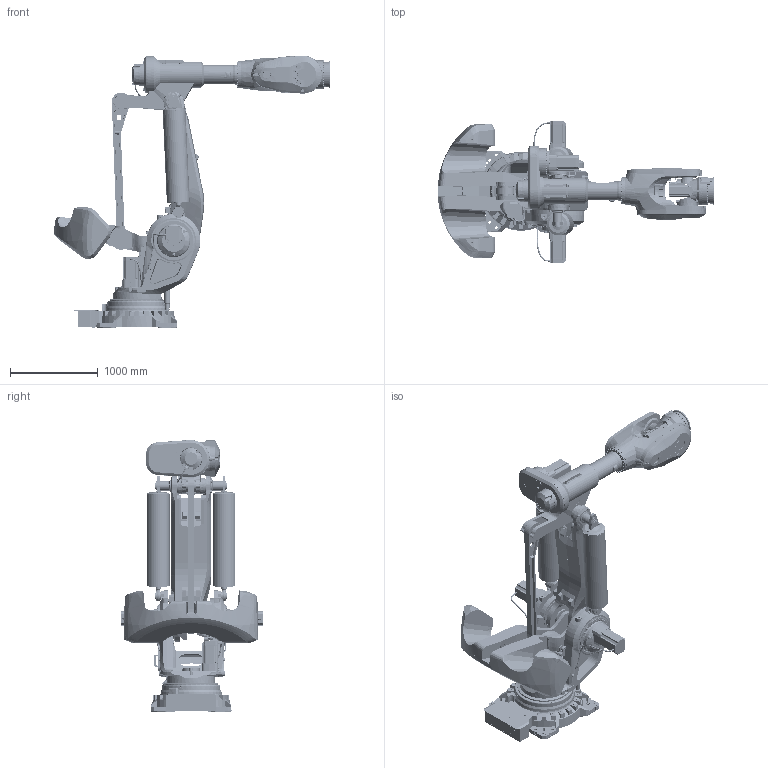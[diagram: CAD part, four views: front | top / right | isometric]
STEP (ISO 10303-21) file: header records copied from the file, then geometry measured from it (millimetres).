
FILE_DESCRIPTION(/* description */ (''),/* implementation_level */ '2;1');
FILE_NAME(/* name */ 'E:\组装完成的图纸\IRB 8700\IRB 8700-800-3.5\IRB 8700-800-3.5.stp',/* time_stamp */ '2023-10-31T11:33:08+08:00',/* author */ ('Administrator'),/* organization */ (''),/* preprocessor_version */ 'ST-DEVELOPER v16.5',/* originating_system */ 'Autodesk Inventor 2017',/* authorisation */ '');
FILE_SCHEMA (('AUTOMOTIVE_DESIGN { 1 0 10303 214 3 1 1 }'));
Length unit declared in the file: millimetre
Products named in the file (14): 部件3; IRB8700_800-350_IRC5_rev00_BAL-A-LEFT_CAD; IRB8700_800-350_IRC5_rev00_BAL-A-RIGHT_CAD; IRB8700_800-350_IRC5_rev00_BAL-B-LEFT_CAD; IRB8700_800-350_IRC5_rev00_BAL-B-RIGHT_CAD; IRB8700_800-350_IRC5_rev00_LINK1_CAD; IRB8700_800-350_IRC5_rev00_LINK2_CAD; IRB8700_800-350_IRC5_rev00_LINK3_CAD; IRB8700_800-350_IRC5_rev00_LINK4_CAD; IRB8700_800-350_IRC5_rev00_LINK5_CAD; IRB8700_800-350_IRC5_rev00_LINK6_CAD; IRB8700_800-350_IRC5_rev00_LINKARM_CAD; IRB8700_800-350_IRC5_rev00_LINKBAR_CAD; IRB8700_800-350_IRC5_rev01_BASE_CAD
Assembly tree (13 placements, depth 2):
  部件3
    IRB8700_800-350_IRC5_rev00_BAL-A-LEFT_CAD
    IRB8700_800-350_IRC5_rev00_BAL-A-RIGHT_CAD
    IRB8700_800-350_IRC5_rev00_BAL-B-LEFT_CAD
    IRB8700_800-350_IRC5_rev00_BAL-B-RIGHT_CAD
    IRB8700_800-350_IRC5_rev00_LINK1_CAD
    IRB8700_800-350_IRC5_rev00_LINK2_CAD
    IRB8700_800-350_IRC5_rev00_LINK3_CAD
    IRB8700_800-350_IRC5_rev00_LINK4_CAD
    IRB8700_800-350_IRC5_rev00_LINK5_CAD
    IRB8700_800-350_IRC5_rev00_LINK6_CAD
    IRB8700_800-350_IRC5_rev00_LINKARM_CAD
    IRB8700_800-350_IRC5_rev00_LINKBAR_CAD
    IRB8700_800-350_IRC5_rev01_BASE_CAD
Bounding box: 3152.47 x 1621 x 3106.11 mm (x, y, z)
Volume: 1216370093.8 mm3; surface area: 27247803.8 mm2
Topology: 18 solids, 27 shells, 4871 faces, 12263 edges, 7958 vertices
Faces by surface type: plane 2843, cylinder 1072, cone 523, bspline 388, torus 41, sphere 4
Full cylindrical faces by diameter (mm): 1.6 x3, 5 x10, 5.45 x1, 6.6 x12, 6.8 x26, 8 x1, 8.5 x8, 8.6 x2, 8.8 x2, 10.2 x4, 11 x3, 11.05 x2, 11.2 x1, 11.5 x1, 12 x1, 12.9 x2, 13.3 x4, 14 x27, 15 x4, 16 x1, 17 x16, 18.3 x32, 18.5 x8, 19 x57, 20 x5, 21 x6, 22 x2, 22.114 x1, 24 x51, 24.5 x2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
Entity records: 259121 total; most frequent: CARTESIAN_POINT 146753, ORIENTED_EDGE 22998, DIRECTION 22321, EDGE_CURVE 11499, AXIS2_PLACEMENT_3D 8018, VERTEX_POINT 7826, LINE 6285, VECTOR 6285
